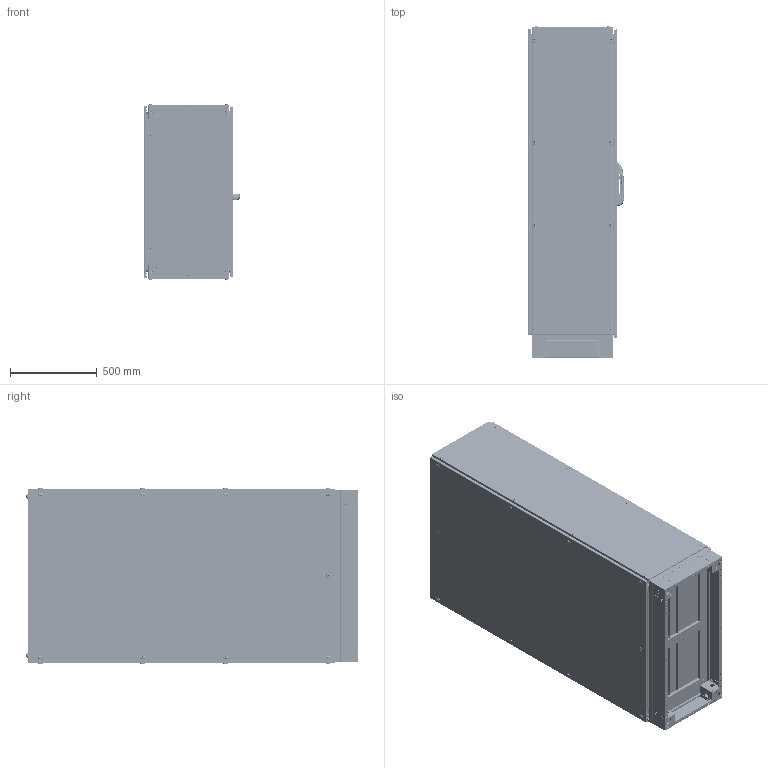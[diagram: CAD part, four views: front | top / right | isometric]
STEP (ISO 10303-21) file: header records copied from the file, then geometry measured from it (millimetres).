
FILE_DESCRIPTION (( 'STEP AP203' ), '1' );
FILE_NAME ('710.185 1000x1800x500.STEP', '2020-04-07T18:22:02', ( '' ), ( '' ), 'SwSTEP 2.0', 'SolidWorks 2019', '' );
FILE_SCHEMA (( 'CONFIG_CONTROL_DESIGN' ));
Length unit declared in the file: millimetre
Products named in the file (161): M6 KAFES SOMU2015; 8502-001-M6_kapal-_1 2018-2; M6 HAVÞA PLASTÝK CÝVATA; ENINE DELIKLI PROFIL 2018-2_1000; kaucuk eskiye uyarlama 10.2016 2018-2; yan Kapak 09-2014 800 der ust tek hv r3_PP 12.0064 - 1800X500; 36 2018-2; TEOS SIDE PANEL_706.185 1800X500; on Kapi 2 mm sol V DAYAMA LI REV 05-2017 2018-2_PP 17.1061 1000x1800; kose rondela kabartmaSIZ 10; TEOS 禽FT KAPAK sol 2020_1000x1800; PB 14.0004 M6 HAVÞA PLASTÝK CÝVATA; Teos-Neo MP Durdurucu; k2-31 2018-2; yan arka kapak baglantý saci; Teos-Neo MP Sað Braket Montaj_Standart Pozisyon; burç 2018-2; kapali dikey profilkenetli_ita oluklu10-aaaaaaaaaaaa-1_500; BAZA SISTEMIV2-6 baza kapaðý201550x40_TEKPAN LOGOLU; 03-TABAN SACI U1 04-2012_PP 12.0037 - 1000-200; external tooth lock washer_am_B18.21.2M-External Tooth Lock Washers_AM8; Montaj PlakAsi aaaaa 3mm_PP 12.01051000x1800; lama1 2018-2; mentese ust alt 09-2010; MP 18.7631; L KOSE DESTEKorj1; MP 14.0006 PVC SIZDIRMAZLIK CONTASI; V2 -2011 DT BAZA KAPAGI ON_PP 12.0047 - 1000; MirrorMP 11.0188 DAYAMA VE KÝLTLEME AL10.2016; M5 DÝKEY PROFÝL RONDELA; kafes somun kafes; MP 18.7631 Modul; mentese orta 09-201; torque nut 02_iso_ISO 7041-M8-N; 03-KOSE PUNT_PP 12.0027; MP 18.7631 32002136; 8510_1_1 2018-2; M8 Kare Somun_m8; arka kapi 1,5 mm gecme askili 09-2014 R3_PP 12.0084 1000x1800; k2-34 2018-2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
Assembly tree (462 placements, depth 7):
  36 2018-2
  710.185 1000x1800x500
    TEOS iskelet_1000x1800x500
      kapali dikey profilkenetli_ita oluklu10-aaaaaaaaaaaa-1_1800  x4
      kapali dikey profilkenetli_ita oluklu10-aaaaaaaaaaaa-1_500  x4
      kapali dikey profilkenetli_ita oluklu10-aaaaaaaaaaaa-1_1000  x4
      L KOSE DESTEKorj1  x8
      kose rondela kabartmaSIZ 10  x15
      kose rondela kabartmaSIZ 12
      MP 11.0140 TEOS ALUMINYUM KOSE APPROVED 16.08.2010  x8
      M5 DÝKEY PROFÝL RONDELA  x16
      percinli taban-vidalý kapak-kose pls yok_701.050-100X50 ALT
        03-taban genislik percinli 04 - 2012 100-120_PP 12.0021 - 1000  x2
        03taban derinlik percinli_PP 12.0024 - 500  x2
        03-KOSE PUNT_PP 12.0027
        03-KOSE PUNT
        Mirror03-KOSE PUNT  x2
        TEOS V2 BAZA S嵞TEM廆1000X500
          BAZA KÖÞES_SAG
            V2 BAZA KOSESI2015_100
            BAZA SISTEMIV2-6 baza kapaðý201550x40_TEKPAN LOGOLU
            M6 KAFES SOMU2015
              kafes somun kafes
              somu
            M6 KAFES SOMU2015
              kafes somun kafes
              somu
          V2 -2011 DT BAZA KAPAGI ON_PP 12.0047 - 1000  x2
          BAZA KÖÞES_SOL
            V2 BAZA KOSESI2015_100
            BAZA SISTEMIV2-6 baza kapaðý201550x40
            M6 KAFES SOMU2015
              kafes somun kafes
              somu
            M6 KAFES SOMU2015
              kafes somun kafes
              somu
          BAZA KÖÞES_SAG
            V2 BAZA KOSESI2015_100
            BAZA SISTEMIV2-6 baza kapaðý201550x40_TEKPAN LOGOLU
            M6 KAFES SOMU2015
              kafes somun kafes
              somu
            M6 KAFES SOMU2015
              kafes somun kafes
              somu
          BAZA KÖÞES_SOL
            V2 BAZA KOSESI2015_100
            BAZA SISTEMIV2-6 baza kapaðý201550x40
            M6 KAFES SOMU2015
              kafes somun kafes
              somu
            M6 KAFES SOMU2015
              kafes somun kafes
              somu
          V3 -2011 DT BAZA KAPAGI yan_PP 12.0050 - 500  x2
          flat head screw_am_B18.6.7M - M6 x 1.0 x 20 Type I Cross Recessed FHMS --20N  x8
        03taban derinlik orta  percinli 04-2012_PP 12.0054 -500
        03-TABAN SACI SURGU_PP 12.0032 - 1000  x2
        03-TABAN SACI U1 04-2012_PP 12.0042 - 1000-75  x2
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Bounding box: 559.22 x 1917.1 x 1018.87 mm (x, y, z)
Volume: 24237512.4 mm3; surface area: 25569969.5 mm2
Topology: 398 solids, 438 shells, 57894 faces, 157233 edges, 99878 vertices
Faces by surface type: plane 35251, cylinder 16736, bspline 2714, torus 1259, cone 1189, sphere 745
Entity records: 808600 total; most frequent: CARTESIAN_POINT 334038, ORIENTED_EDGE 97054, DIRECTION 87779, EDGE_CURVE 48527, LINE 31343, VECTOR 31343, VERTEX_POINT 30984, AXIS2_PLACEMENT_3D 28218
